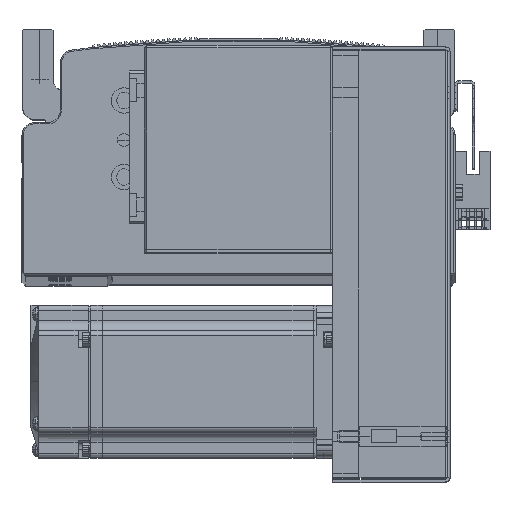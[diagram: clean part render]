
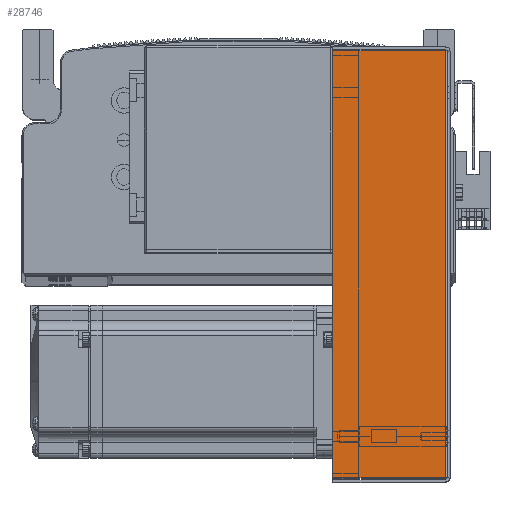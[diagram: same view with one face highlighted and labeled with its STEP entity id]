
A CAD part, top view. The second image highlights one B-rep face of the part: STEP entity #28746.
In plain terms, the highlighted planar face has unit normal (0, 0, 1) as drawn and (0, 0, -1) by its records, which use the part's own axes.
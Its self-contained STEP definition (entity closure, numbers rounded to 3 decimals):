
#15513 = VERTEX_POINT ( 'NONE', #90499 ) ;
#15542 = VERTEX_POINT ( 'NONE', #90545 ) ;
#15551 = VERTEX_POINT ( 'NONE', #90546 ) ;
#15589 = VERTEX_POINT ( 'NONE', #90682 ) ;
#16700 = VECTOR ( 'NONE', #46506, 1000. ) ;
#16750 = LINE ( 'NONE', #46539, #16700 ) ;
#16793 = LINE ( 'NONE', #46606, #17125 ) ;
#17125 = VECTOR ( 'NONE', #46594, 1000. ) ;
#17443 = AXIS2_PLACEMENT_3D ( 'NONE', #83328, #83339, #83373 ) ;
#18790 = EDGE_LOOP ( 'NONE', ( #51189, #53107, #19997, #51233 ) ) ;
#19997 = ORIENTED_EDGE ( 'NONE', *, *, #43871, .T. ) ;
#24883 = FACE_OUTER_BOUND ( 'NONE', #18790, .T. ) ;
#28746 = ADVANCED_FACE ( 'NONE', ( #24883 ), #83303, .F. ) ;
#32369 = VECTOR ( 'NONE', #46756, 1000. ) ;
#32426 = LINE ( 'NONE', #46702, #32369 ) ;
#32463 = VECTOR ( 'NONE', #46353, 1000. ) ;
#32547 = LINE ( 'NONE', #46852, #32463 ) ;
#43862 = EDGE_CURVE ( 'NONE', #15589, #15551, #16750, .T. ) ;
#43871 = EDGE_CURVE ( 'NONE', #15551, #15542, #16793, .T. ) ;
#43899 = EDGE_CURVE ( 'NONE', #15513, #15542, #32426, .T. ) ;
#43939 = EDGE_CURVE ( 'NONE', #15589, #15513, #32547, .T. ) ;
#46353 = DIRECTION ( 'NONE',  ( 1., 0., 0. ) ) ;
#46506 = DIRECTION ( 'NONE',  ( 0., 1., 0. ) ) ;
#46539 = CARTESIAN_POINT ( 'NONE',  ( -83.793, 0., -40.5 ) ) ;
#46594 = DIRECTION ( 'NONE',  ( 1., 0., 0. ) ) ;
#46606 = CARTESIAN_POINT ( 'NONE',  ( 84.5, 45., -40.5 ) ) ;
#46702 = CARTESIAN_POINT ( 'NONE',  ( 83.793, 0., -40.5 ) ) ;
#46756 = DIRECTION ( 'NONE',  ( 0., 1., 0. ) ) ;
#46852 = CARTESIAN_POINT ( 'NONE',  ( 0., 0.737, -40.5 ) ) ;
#51189 = ORIENTED_EDGE ( 'NONE', *, *, #43939, .F. ) ;
#51233 = ORIENTED_EDGE ( 'NONE', *, *, #43899, .F. ) ;
#53107 = ORIENTED_EDGE ( 'NONE', *, *, #43862, .T. ) ;
#83303 = PLANE ( 'NONE',  #17443 ) ;
#83328 = CARTESIAN_POINT ( 'NONE',  ( 0., 0., -40.5 ) ) ;
#83339 = DIRECTION ( 'NONE',  ( 0., 0., 1. ) ) ;
#83373 = DIRECTION ( 'NONE',  ( 0., -1., 0. ) ) ;
#90499 = CARTESIAN_POINT ( 'NONE',  ( 83.793, 0.737, -40.5 ) ) ;
#90545 = CARTESIAN_POINT ( 'NONE',  ( 83.793, 45., -40.5 ) ) ;
#90546 = CARTESIAN_POINT ( 'NONE',  ( -83.793, 45., -40.5 ) ) ;
#90682 = CARTESIAN_POINT ( 'NONE',  ( -83.793, 0.737, -40.5 ) ) ;
